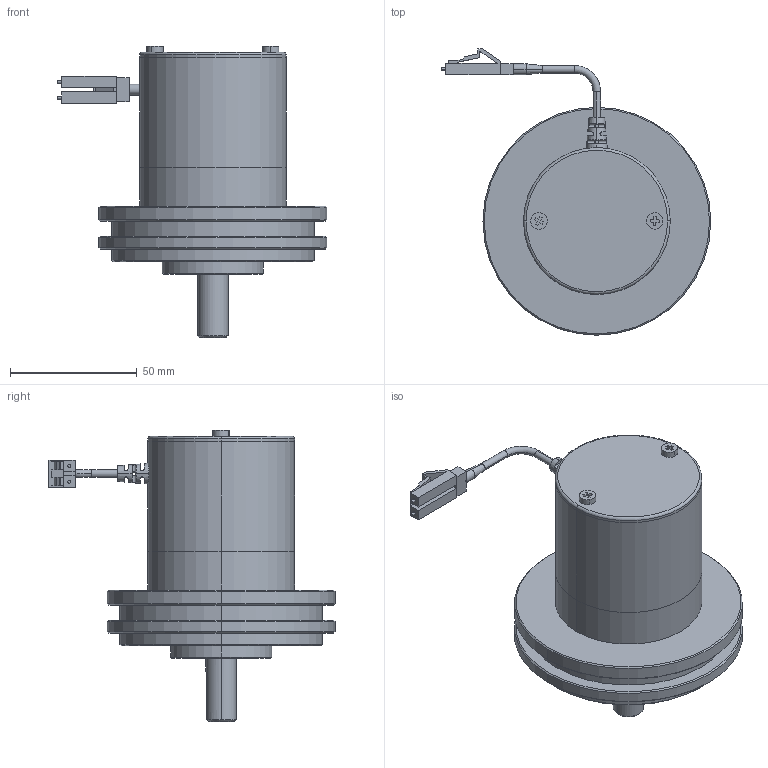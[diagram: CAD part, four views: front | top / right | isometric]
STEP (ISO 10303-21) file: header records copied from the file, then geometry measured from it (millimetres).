
FILE_DESCRIPTION (( 'STEP AP203' ), '1' );
FILE_NAME ('MR346.STEP', '2018-04-10T18:20:58', ( '' ), ( '' ), 'SwSTEP 2.0', 'SolidWorks 2017', '' );
FILE_SCHEMA (( 'CONFIG_CONTROL_DESIGN' ));
Length unit declared in the file: inch
Products named in the file (1): MR346
Bounding box: 106.47 x 113.04 x 115.09 mm (x, y, z)
Volume: 181907.5 mm3; surface area: 63424.1 mm2
Topology: 12 solids, 12 shells, 397 faces, 938 edges, 591 vertices
Faces by surface type: cylinder 164, plane 160, cone 69, torus 4
Entity records: 11929 total; most frequent: CARTESIAN_POINT 2454, DIRECTION 2080, ORIENTED_EDGE 1832, EDGE_CURVE 916, AXIS2_PLACEMENT_3D 797, VERTEX_POINT 591, VECTOR 486, LINE 486
